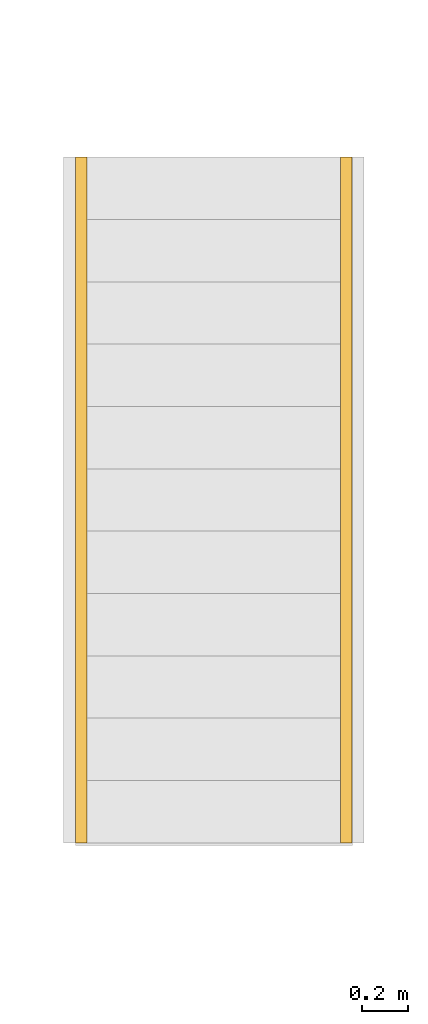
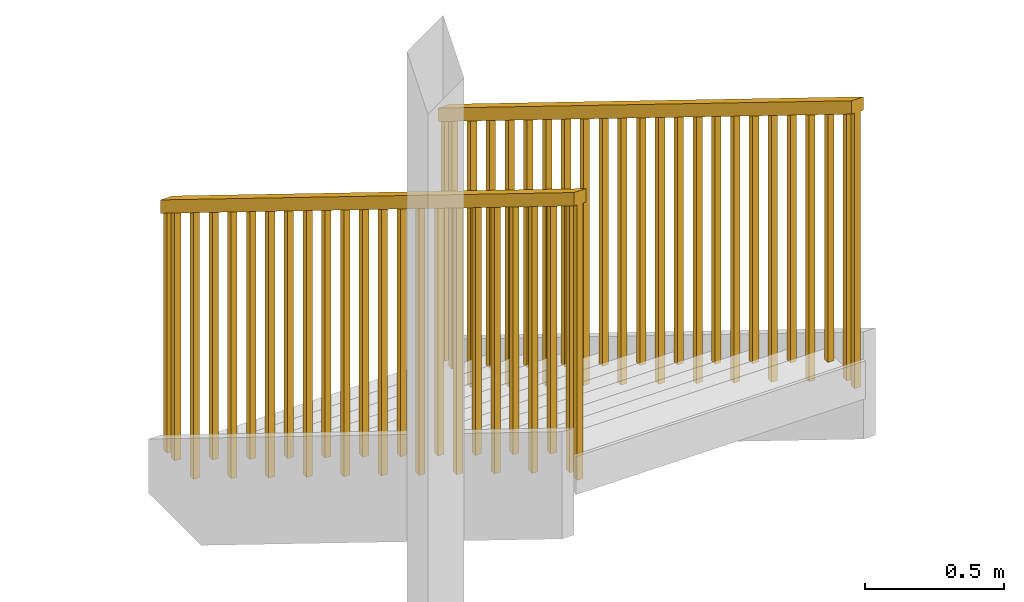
# One storey, part 10 of 16: 2 railings, 1 element without a shape of its own.
"""IFC2X3 building model written with IfcOpenShell, lengths in millimetres."""

from ifc_helpers import new_model, entity, si_unit, converted_unit, derived_unit, direction, frame, origin, place, context, subcontext, project, spatial, polyline, outline, extrude, element, aggregate, save


model = new_model("IFC2X3")

# Units and contexts
model_context = context("Model", 3, precision=0.01, world=origin(), true_north=direction((4.05803320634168e-15, -1.0)))
body_context = subcontext(model_context, "Body", "Model", "MODEL_VIEW")
ifc_project = project(units=[si_unit("LENGTHUNIT", "METRE", prefix="MILLI"), si_unit("AREAUNIT", "SQUARE_METRE"), si_unit("VOLUMEUNIT", "CUBIC_METRE"), converted_unit("PLANEANGLEUNIT", "DEGREE", entity("IfcRatioMeasure", 0.0174532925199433), si_unit("PLANEANGLEUNIT", "RADIAN"), dimensions=[0, 0, 0, 0, 0, 0, 0]), si_unit("MASSUNIT", "GRAM", prefix="KILO"), derived_unit("MASSDENSITYUNIT", [(si_unit("MASSUNIT", "GRAM", prefix="KILO"), 1), (si_unit("LENGTHUNIT", "METRE"), -3)]), si_unit("TIMEUNIT", "SECOND"), si_unit("FREQUENCYUNIT", "HERTZ"), si_unit("THERMODYNAMICTEMPERATUREUNIT", "DEGREE_CELSIUS"), derived_unit("THERMALTRANSMITTANCEUNIT", [(si_unit("MASSUNIT", "GRAM", prefix="KILO"), 1), (si_unit("THERMODYNAMICTEMPERATUREUNIT", "KELVIN"), -1), (si_unit("TIMEUNIT", "SECOND"), -3)]), derived_unit("VOLUMETRICFLOWRATEUNIT", [(si_unit("LENGTHUNIT", "METRE"), 3), (si_unit("TIMEUNIT", "SECOND"), -1)]), si_unit("ELECTRICCURRENTUNIT", "AMPERE"), si_unit("ELECTRICVOLTAGEUNIT", "VOLT"), si_unit("POWERUNIT", "WATT"), si_unit("FORCEUNIT", "NEWTON", prefix="KILO"), si_unit("ILLUMINANCEUNIT", "LUX"), si_unit("LUMINOUSFLUXUNIT", "LUMEN"), si_unit("LUMINOUSINTENSITYUNIT", "CANDELA"), derived_unit("USERDEFINED", [(si_unit("MASSUNIT", "GRAM", prefix="KILO"), -1), (si_unit("LENGTHUNIT", "METRE"), -2), (si_unit("TIMEUNIT", "SECOND"), 3), (si_unit("LUMINOUSFLUXUNIT", "LUMEN"), 1)]), derived_unit("LINEARVELOCITYUNIT", [(si_unit("LENGTHUNIT", "METRE"), 1), (si_unit("TIMEUNIT", "SECOND"), -1)]), si_unit("PRESSUREUNIT", "PASCAL"), derived_unit("USERDEFINED", [(si_unit("LENGTHUNIT", "METRE"), -2), (si_unit("MASSUNIT", "GRAM", prefix="KILO"), 1), (si_unit("TIMEUNIT", "SECOND"), -2)])], contexts=[model_context])

# Site, building, storey
site_placement = place(None, frame((927466.849349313, 583801.882853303, 0.0), z_axis=(0.0, 0.0, 1.0), x_axis=(-1.0, 0.0, 0.0)))
site = spatial("IfcSite", under=ifc_project, at=site_placement, Name="Surface", CompositionType="ELEMENT")
building_placement = place(site_placement, origin())
building = spatial("IfcBuilding", under=site, at=building_placement, CompositionType="ELEMENT")
storey_placement = place(building_placement, frame((0.0, 0.0, 42810.0)))
storey = spatial("IfcBuildingStorey", under=building, at=storey_placement, Name="Hardstand", CompositionType="ELEMENT", Elevation=42810.0)

# Stair, railings
stair_placement = place(storey_placement, origin())
stair = element("IfcStair", 1, at=stair_placement, inside=storey, Name="Assembled Stair:Stair", ObjectType="Assembled Stair:170mm max riser 270mm going", ShapeType="NOTDEFINED")
railing_1_placement = place(stair_placement, origin())
railing_1 = element("IfcRailing", 2, at=railing_1_placement, Name="Railing:1100mm", ObjectType="Railing:1100mm", PredefinedType="NOTDEFINED", context=body_context, shape_type="SweptSolid", body=[
    extrude(outline(polyline([(-12.4999999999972, -583.120591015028), (12.4999999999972, -583.120591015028), (12.4999999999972, 590.836640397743), (-12.4999999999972, 575.404541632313), (-12.4999999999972, -583.120591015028)])), frame((-19707.4693282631, 45571.9991707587, 2326.45392434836), z_axis=(1.0, 0.0, 0.0), x_axis=(0.0, 1.0, 0.0)), (0.0, 0.0, 1.0), 25.000000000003),
    extrude(outline(polyline([(-12.4999999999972, -541.453924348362), (12.4999999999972, -541.453924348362), (12.4999999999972, 549.169973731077), (-12.4999999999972, 533.737874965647), (-12.4999999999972, -541.453924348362)])), frame((-19707.4693282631, 45436.9991707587, 2284.7872576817), z_axis=(1.0, 0.0, 0.0), x_axis=(0.0, 1.0, 0.0)), (0.0, 0.0, 1.0), 25.000000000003),
    extrude(outline(polyline([(-12.4999999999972, -583.120591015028), (12.4999999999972, -583.120591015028), (12.4999999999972, 590.836640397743), (-12.4999999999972, 575.404541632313), (-12.4999999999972, -583.120591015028)])), frame((-19707.4693282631, 45301.9991707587, 2159.7872576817), z_axis=(1.0, 0.0, 0.0), x_axis=(0.0, 1.0, 0.0)), (0.0, 0.0, 1.0), 25.000000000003),
    extrude(outline(polyline([(-12.4999999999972, -541.453924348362), (12.4999999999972, -541.453924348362), (12.4999999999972, 549.169973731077), (-12.4999999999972, 533.737874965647), (-12.4999999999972, -541.453924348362)])), frame((-19707.4693282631, 45166.9991707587, 2118.12059101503), z_axis=(1.0, 0.0, 0.0), x_axis=(0.0, 1.0, 0.0)), (0.0, 0.0, 1.0), 25.000000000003),
    extrude(outline(polyline([(-12.4999999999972, -583.120591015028), (12.4999999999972, -583.120591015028), (12.4999999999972, 590.836640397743), (-12.4999999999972, 575.404541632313), (-12.4999999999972, -583.120591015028)])), frame((-19707.4693282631, 45031.9991707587, 1993.12059101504), z_axis=(1.0, 0.0, 0.0), x_axis=(0.0, 1.0, 0.0)), (0.0, 0.0, 1.0), 25.000000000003),
    extrude(outline(polyline([(-12.4999999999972, -541.453924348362), (12.4999999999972, -541.453924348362), (12.4999999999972, 549.169973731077), (-12.4999999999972, 533.737874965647), (-12.4999999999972, -541.453924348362)])), frame((-19707.4693282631, 44896.9991707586, 1951.45392434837), z_axis=(1.0, 0.0, 0.0), x_axis=(0.0, 1.0, 0.0)), (0.0, 0.0, 1.0), 25.000000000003),
    extrude(outline(polyline([(-12.4999999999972, -583.120591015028), (12.4999999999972, -583.120591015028), (12.4999999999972, 590.836640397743), (-12.4999999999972, 575.404541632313), (-12.4999999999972, -583.120591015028)])), frame((-19707.4693282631, 44761.9991707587, 1826.45392434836), z_axis=(1.0, 0.0, 0.0), x_axis=(0.0, 1.0, 0.0)), (0.0, 0.0, 1.0), 25.000000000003),
    extrude(outline(polyline([(-12.4999999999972, -541.453924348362), (12.4999999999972, -541.453924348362), (12.4999999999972, 549.169973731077), (-12.4999999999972, 533.737874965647), (-12.4999999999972, -541.453924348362)])), frame((-19707.4693282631, 44626.9991707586, 1784.7872576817), z_axis=(1.0, 0.0, 0.0), x_axis=(0.0, 1.0, 0.0)), (0.0, 0.0, 1.0), 25.000000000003),
    extrude(outline(polyline([(-12.4999999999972, -583.120591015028), (12.4999999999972, -583.120591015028), (12.4999999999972, 590.836640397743), (-12.4999999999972, 575.404541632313), (-12.4999999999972, -583.120591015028)])), frame((-19707.4693282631, 44491.9991707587, 1659.7872576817), z_axis=(1.0, 0.0, 0.0), x_axis=(0.0, 1.0, 0.0)), (0.0, 0.0, 1.0), 25.000000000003),
    extrude(outline(polyline([(-12.4999999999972, -541.453924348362), (12.4999999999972, -541.453924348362), (12.4999999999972, 549.169973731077), (-12.4999999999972, 533.737874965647), (-12.4999999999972, -541.453924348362)])), frame((-19707.4693282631, 44356.9991707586, 1618.12059101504), z_axis=(1.0, 0.0, 0.0), x_axis=(0.0, 1.0, 0.0)), (0.0, 0.0, 1.0), 25.000000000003),
    extrude(outline(polyline([(-12.4999999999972, -583.120591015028), (12.4999999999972, -583.120591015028), (12.4999999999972, 590.836640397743), (-12.4999999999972, 575.404541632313), (-12.4999999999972, -583.120591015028)])), frame((-19707.4693282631, 44221.9991707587, 1493.12059101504), z_axis=(1.0, 0.0, 0.0), x_axis=(0.0, 1.0, 0.0)), (0.0, 0.0, 1.0), 25.000000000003),
    extrude(outline(polyline([(-12.4999999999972, -541.453924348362), (12.4999999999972, -541.453924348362), (12.4999999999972, 549.169973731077), (-12.4999999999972, 533.737874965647), (-12.4999999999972, -541.453924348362)])), frame((-19707.4693282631, 44086.9991707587, 1451.45392434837), z_axis=(1.0, 0.0, 0.0), x_axis=(0.0, 1.0, 0.0)), (0.0, 0.0, 1.0), 25.000000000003),
    extrude(outline(polyline([(-12.4999999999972, -583.120591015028), (12.4999999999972, -583.120591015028), (12.4999999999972, 590.836640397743), (-12.4999999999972, 575.404541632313), (-12.4999999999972, -583.120591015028)])), frame((-19707.4693282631, 43951.9991707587, 1326.45392434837), z_axis=(1.0, 0.0, 0.0), x_axis=(0.0, 1.0, 0.0)), (0.0, 0.0, 1.0), 25.000000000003),
    extrude(outline(polyline([(-12.4999999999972, -541.453924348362), (12.4999999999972, -541.453924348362), (12.4999999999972, 549.169973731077), (-12.4999999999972, 533.737874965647), (-12.4999999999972, -541.453924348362)])), frame((-19707.4693282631, 43816.9991707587, 1284.7872576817), z_axis=(1.0, 0.0, 0.0), x_axis=(0.0, 1.0, 0.0)), (0.0, 0.0, 1.0), 25.000000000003),
    extrude(outline(polyline([(-12.4999999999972, -583.120591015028), (12.4999999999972, -583.120591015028), (12.4999999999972, 590.836640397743), (-12.4999999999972, 575.404541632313), (-12.4999999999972, -583.120591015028)])), frame((-19707.4693282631, 43681.9991707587, 1159.7872576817), z_axis=(1.0, 0.0, 0.0), x_axis=(0.0, 1.0, 0.0)), (0.0, 0.0, 1.0), 25.000000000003),
    extrude(outline(polyline([(-12.4999999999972, -541.453924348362), (12.4999999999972, -541.453924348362), (12.4999999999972, 549.169973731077), (-12.4999999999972, 533.737874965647), (-12.4999999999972, -541.453924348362)])), frame((-19707.4693282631, 43546.9991707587, 1118.12059101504), z_axis=(1.0, 0.0, 0.0), x_axis=(0.0, 1.0, 0.0)), (0.0, 0.0, 1.0), 25.000000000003),
    extrude(outline(polyline([(-12.4999999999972, -583.120591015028), (12.4999999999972, -583.120591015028), (12.4999999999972, 590.836640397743), (-12.4999999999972, 575.404541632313), (-12.4999999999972, -583.120591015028)])), frame((-19707.4693282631, 43411.9991707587, 993.120591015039), z_axis=(1.0, 0.0, 0.0), x_axis=(0.0, 1.0, 0.0)), (0.0, 0.0, 1.0), 25.000000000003),
    extrude(outline(polyline([(-12.4999999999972, -541.453924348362), (12.4999999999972, -541.453924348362), (12.4999999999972, 549.169973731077), (-12.4999999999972, 533.737874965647), (-12.4999999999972, -541.453924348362)])), frame((-19707.4693282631, 43276.9991707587, 951.453924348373), z_axis=(1.0, 0.0, 0.0), x_axis=(0.0, 1.0, 0.0)), (0.0, 0.0, 1.0), 25.000000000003),
    extrude(outline(polyline([(-12.4999999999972, -583.120591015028), (12.4999999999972, -583.120591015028), (12.4999999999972, 590.836640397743), (-12.4999999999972, 575.404541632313), (-12.4999999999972, -583.120591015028)])), frame((-19707.4693282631, 43141.9991707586, 826.453924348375), z_axis=(1.0, 0.0, 0.0), x_axis=(0.0, 1.0, 0.0)), (0.0, 0.0, 1.0), 25.000000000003),
    extrude(outline(polyline([(-12.4999999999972, -541.453924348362), (12.4999999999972, -541.453924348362), (12.4999999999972, 549.169973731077), (-12.4999999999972, 533.737874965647), (-12.4999999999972, -541.453924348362)])), frame((-19707.4693282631, 43006.9991707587, 784.787257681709), z_axis=(1.0, 0.0, 0.0), x_axis=(0.0, 1.0, 0.0)), (0.0, 0.0, 1.0), 25.000000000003),
    extrude(outline(polyline([(-12.4999999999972, -583.120591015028), (12.4999999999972, -583.120591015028), (12.4999999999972, 590.836640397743), (-12.4999999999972, 575.404541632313), (-12.4999999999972, -583.120591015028)])), frame((-19707.4693282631, 42871.9991707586, 659.787257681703), z_axis=(1.0, 0.0, 0.0), x_axis=(0.0, 1.0, 0.0)), (0.0, 0.0, 1.0), 25.000000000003),
    extrude(outline(polyline([(-12.4999999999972, -541.453924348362), (12.4999999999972, -541.453924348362), (12.4999999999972, 549.169973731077), (-12.4999999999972, 533.737874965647), (-12.4999999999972, -541.453924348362)])), frame((-19707.4693282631, 42736.9991707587, 618.120591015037), z_axis=(1.0, 0.0, 0.0), x_axis=(0.0, 1.0, 0.0)), (0.0, 0.0, 1.0), 25.000000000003),
    extrude(outline(polyline([(-12.4999999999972, -600.095899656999), (12.4999999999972, -600.095899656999), (12.4999999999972, 607.811949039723), (-12.4999999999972, 592.379850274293), (-12.4999999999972, -600.095899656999)])), frame((-19707.4693282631, 45626.9991707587, 2343.42923299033), z_axis=(1.0, 0.0, 0.0), x_axis=(0.0, 1.0, 0.0)), (0.0, 0.0, 1.0), 25.000000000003),
    extrude(outline(polyline([(-12.4999999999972, -524.478615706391), (12.4999999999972, -524.478615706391), (12.4999999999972, 532.194665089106), (-12.4999999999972, 516.762566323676), (-12.4999999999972, -524.478615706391)])), frame((-19707.4693282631, 42681.9991707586, 601.145282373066), z_axis=(1.0, 0.0, 0.0), x_axis=(0.0, 1.0, 0.0)), (0.0, 0.0, 1.0), 25.000000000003),
    extrude(outline(polyline([(-1760.56899247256, -25.0), (1729.7047949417, -25.0), (1760.56899247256, 25.0), (-1729.7047949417, 25.0), (-1760.56899247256, -25.0)])), frame((-19719.9693282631, 44154.4991707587, 2063.95392434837), z_axis=(1.0, 0.0, 0.0), x_axis=(0.0, 0.850936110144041, 0.525269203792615)), (0.0, 0.0, 1.0), 49.9999999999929),
])
railing_2_placement = place(stair_placement, origin())
railing_2 = element("IfcRailing", 3, at=railing_2_placement, Name="Railing:1100mm", ObjectType="Railing:1100mm", PredefinedType="NOTDEFINED", context=body_context, shape_type="SweptSolid", body=[
    extrude(outline(polyline([(-575.404541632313, -12.4999999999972), (583.120591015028, -12.4999999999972), (583.120591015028, 12.4999999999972), (-590.836640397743, 12.5000000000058), (-575.404541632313, -12.4999999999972)])), frame((-20856.6693282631, 45571.9991707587, 2326.45392434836), z_axis=(1.0, 0.0, 0.0), x_axis=(0.0, 0.0, -1.0)), (0.0, 0.0, 1.0), 25.000000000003),
    extrude(outline(polyline([(-533.737874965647, -12.4999999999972), (541.453924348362, -12.4999999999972), (541.453924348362, 12.4999999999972), (-549.169973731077, 12.5000000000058), (-533.737874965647, -12.4999999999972)])), frame((-20856.6693282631, 45436.9991707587, 2284.7872576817), z_axis=(1.0, 0.0, 0.0), x_axis=(0.0, 0.0, -1.0)), (0.0, 0.0, 1.0), 25.000000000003),
    extrude(outline(polyline([(-575.404541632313, -12.4999999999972), (583.120591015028, -12.4999999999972), (583.120591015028, 12.4999999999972), (-590.836640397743, 12.5000000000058), (-575.404541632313, -12.4999999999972)])), frame((-20856.6693282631, 45301.9991707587, 2159.7872576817), z_axis=(1.0, 0.0, 0.0), x_axis=(0.0, 0.0, -1.0)), (0.0, 0.0, 1.0), 25.000000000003),
    extrude(outline(polyline([(-533.737874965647, -12.4999999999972), (541.453924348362, -12.4999999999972), (541.453924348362, 12.4999999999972), (-549.169973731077, 12.5000000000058), (-533.737874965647, -12.4999999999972)])), frame((-20856.6693282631, 45166.9991707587, 2118.12059101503), z_axis=(1.0, 0.0, 0.0), x_axis=(0.0, 0.0, -1.0)), (0.0, 0.0, 1.0), 25.000000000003),
    extrude(outline(polyline([(-575.404541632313, -12.4999999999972), (583.120591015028, -12.4999999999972), (583.120591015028, 12.4999999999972), (-590.836640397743, 12.5000000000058), (-575.404541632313, -12.4999999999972)])), frame((-20856.6693282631, 45031.9991707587, 1993.12059101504), z_axis=(1.0, 0.0, 0.0), x_axis=(0.0, 0.0, -1.0)), (0.0, 0.0, 1.0), 25.000000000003),
    extrude(outline(polyline([(-533.737874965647, -12.4999999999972), (541.453924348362, -12.4999999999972), (541.453924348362, 12.4999999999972), (-549.169973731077, 12.5000000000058), (-533.737874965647, -12.4999999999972)])), frame((-20856.6693282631, 44896.9991707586, 1951.45392434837), z_axis=(1.0, 0.0, 0.0), x_axis=(0.0, 0.0, -1.0)), (0.0, 0.0, 1.0), 25.000000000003),
    extrude(outline(polyline([(-575.404541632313, -12.4999999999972), (583.120591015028, -12.4999999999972), (583.120591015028, 12.4999999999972), (-590.836640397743, 12.5000000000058), (-575.404541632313, -12.4999999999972)])), frame((-20856.6693282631, 44761.9991707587, 1826.45392434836), z_axis=(1.0, 0.0, 0.0), x_axis=(0.0, 0.0, -1.0)), (0.0, 0.0, 1.0), 25.000000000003),
    extrude(outline(polyline([(-533.737874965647, -12.4999999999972), (541.453924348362, -12.4999999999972), (541.453924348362, 12.4999999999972), (-549.169973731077, 12.5000000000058), (-533.737874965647, -12.4999999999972)])), frame((-20856.6693282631, 44626.9991707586, 1784.7872576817), z_axis=(1.0, 0.0, 0.0), x_axis=(0.0, 0.0, -1.0)), (0.0, 0.0, 1.0), 25.000000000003),
    extrude(outline(polyline([(-575.404541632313, -12.4999999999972), (583.120591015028, -12.4999999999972), (583.120591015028, 12.4999999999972), (-590.836640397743, 12.5000000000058), (-575.404541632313, -12.4999999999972)])), frame((-20856.6693282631, 44491.9991707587, 1659.7872576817), z_axis=(1.0, 0.0, 0.0), x_axis=(0.0, 0.0, -1.0)), (0.0, 0.0, 1.0), 25.000000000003),
    extrude(outline(polyline([(-533.737874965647, -12.4999999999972), (541.453924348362, -12.4999999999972), (541.453924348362, 12.4999999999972), (-549.169973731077, 12.5000000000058), (-533.737874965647, -12.4999999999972)])), frame((-20856.6693282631, 44356.9991707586, 1618.12059101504), z_axis=(1.0, 0.0, 0.0), x_axis=(0.0, 0.0, -1.0)), (0.0, 0.0, 1.0), 25.000000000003),
    extrude(outline(polyline([(-575.404541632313, -12.4999999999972), (583.120591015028, -12.4999999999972), (583.120591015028, 12.4999999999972), (-590.836640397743, 12.5000000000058), (-575.404541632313, -12.4999999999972)])), frame((-20856.6693282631, 44221.9991707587, 1493.12059101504), z_axis=(1.0, 0.0, 0.0), x_axis=(0.0, 0.0, -1.0)), (0.0, 0.0, 1.0), 25.000000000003),
    extrude(outline(polyline([(-533.737874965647, -12.4999999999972), (541.453924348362, -12.4999999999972), (541.453924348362, 12.4999999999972), (-549.169973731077, 12.5000000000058), (-533.737874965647, -12.4999999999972)])), frame((-20856.6693282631, 44086.9991707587, 1451.45392434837), z_axis=(1.0, 0.0, 0.0), x_axis=(0.0, 0.0, -1.0)), (0.0, 0.0, 1.0), 25.000000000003),
    extrude(outline(polyline([(-575.404541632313, -12.4999999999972), (583.120591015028, -12.4999999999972), (583.120591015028, 12.4999999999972), (-590.836640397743, 12.5000000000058), (-575.404541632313, -12.4999999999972)])), frame((-20856.6693282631, 43951.9991707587, 1326.45392434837), z_axis=(1.0, 0.0, 0.0), x_axis=(0.0, 0.0, -1.0)), (0.0, 0.0, 1.0), 25.000000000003),
    extrude(outline(polyline([(-533.737874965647, -12.4999999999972), (541.453924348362, -12.4999999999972), (541.453924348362, 12.4999999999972), (-549.169973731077, 12.5000000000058), (-533.737874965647, -12.4999999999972)])), frame((-20856.6693282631, 43816.9991707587, 1284.7872576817), z_axis=(1.0, 0.0, 0.0), x_axis=(0.0, 0.0, -1.0)), (0.0, 0.0, 1.0), 25.000000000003),
    extrude(outline(polyline([(-575.404541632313, -12.4999999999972), (583.120591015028, -12.4999999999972), (583.120591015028, 12.4999999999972), (-590.836640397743, 12.5000000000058), (-575.404541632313, -12.4999999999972)])), frame((-20856.6693282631, 43681.9991707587, 1159.7872576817), z_axis=(1.0, 0.0, 0.0), x_axis=(0.0, 0.0, -1.0)), (0.0, 0.0, 1.0), 25.000000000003),
    extrude(outline(polyline([(-533.737874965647, -12.4999999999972), (541.453924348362, -12.4999999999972), (541.453924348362, 12.4999999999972), (-549.169973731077, 12.5000000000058), (-533.737874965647, -12.4999999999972)])), frame((-20856.6693282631, 43546.9991707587, 1118.12059101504), z_axis=(1.0, 0.0, 0.0), x_axis=(0.0, 0.0, -1.0)), (0.0, 0.0, 1.0), 25.000000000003),
    extrude(outline(polyline([(-575.404541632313, -12.4999999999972), (583.120591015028, -12.4999999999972), (583.120591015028, 12.4999999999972), (-590.836640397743, 12.5000000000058), (-575.404541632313, -12.4999999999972)])), frame((-20856.6693282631, 43411.9991707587, 993.120591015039), z_axis=(1.0, 0.0, 0.0), x_axis=(0.0, 0.0, -1.0)), (0.0, 0.0, 1.0), 25.000000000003),
    extrude(outline(polyline([(-533.737874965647, -12.4999999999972), (541.453924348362, -12.4999999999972), (541.453924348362, 12.4999999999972), (-549.169973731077, 12.5000000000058), (-533.737874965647, -12.4999999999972)])), frame((-20856.6693282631, 43276.9991707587, 951.453924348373), z_axis=(1.0, 0.0, 0.0), x_axis=(0.0, 0.0, -1.0)), (0.0, 0.0, 1.0), 25.000000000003),
    extrude(outline(polyline([(-575.404541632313, -12.4999999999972), (583.120591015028, -12.4999999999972), (583.120591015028, 12.4999999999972), (-590.836640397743, 12.5000000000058), (-575.404541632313, -12.4999999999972)])), frame((-20856.6693282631, 43141.9991707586, 826.453924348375), z_axis=(1.0, 0.0, 0.0), x_axis=(0.0, 0.0, -1.0)), (0.0, 0.0, 1.0), 25.000000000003),
    extrude(outline(polyline([(-533.737874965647, -12.4999999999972), (541.453924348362, -12.4999999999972), (541.453924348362, 12.4999999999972), (-549.169973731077, 12.5000000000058), (-533.737874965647, -12.4999999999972)])), frame((-20856.6693282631, 43006.9991707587, 784.787257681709), z_axis=(1.0, 0.0, 0.0), x_axis=(0.0, 0.0, -1.0)), (0.0, 0.0, 1.0), 25.000000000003),
    extrude(outline(polyline([(-575.404541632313, -12.4999999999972), (583.120591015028, -12.4999999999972), (583.120591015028, 12.4999999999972), (-590.836640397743, 12.5000000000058), (-575.404541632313, -12.4999999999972)])), frame((-20856.6693282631, 42871.9991707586, 659.787257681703), z_axis=(1.0, 0.0, 0.0), x_axis=(0.0, 0.0, -1.0)), (0.0, 0.0, 1.0), 25.000000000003),
    extrude(outline(polyline([(-533.737874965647, -12.4999999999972), (541.453924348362, -12.4999999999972), (541.453924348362, 12.4999999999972), (-549.169973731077, 12.5000000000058), (-533.737874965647, -12.4999999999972)])), frame((-20856.6693282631, 42736.9991707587, 618.120591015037), z_axis=(1.0, 0.0, 0.0), x_axis=(0.0, 0.0, -1.0)), (0.0, 0.0, 1.0), 25.000000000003),
    extrude(outline(polyline([(-592.379850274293, -12.4999999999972), (600.095899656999, -12.4999999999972), (600.095899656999, 12.4999999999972), (-607.811949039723, 12.5000000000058), (-592.379850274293, -12.4999999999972)])), frame((-20856.6693282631, 45626.9991707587, 2343.42923299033), z_axis=(1.0, 0.0, 0.0), x_axis=(0.0, 0.0, -1.0)), (0.0, 0.0, 1.0), 25.000000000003),
    extrude(outline(polyline([(-516.762566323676, -12.4999999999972), (524.478615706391, -12.4999999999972), (524.478615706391, 12.4999999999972), (-532.194665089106, 12.5000000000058), (-516.762566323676, -12.4999999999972)])), frame((-20856.6693282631, 42681.9991707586, 601.145282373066), z_axis=(1.0, 0.0, 0.0), x_axis=(0.0, 0.0, -1.0)), (0.0, 0.0, 1.0), 25.000000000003),
    extrude(outline(polyline([(-1760.56899247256, -25.0), (1729.7047949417, -25.0), (1760.56899247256, 25.0), (-1729.7047949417, 25.0), (-1760.56899247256, -25.0)])), frame((-20869.1693282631, 44154.4991707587, 2063.95392434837), z_axis=(1.0, 0.0, 0.0), x_axis=(0.0, 0.850936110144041, 0.525269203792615)), (0.0, 0.0, 1.0), 49.9999999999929),
])
aggregate(stair, [railing_1, railing_2])

save(model, "model.ifc")
